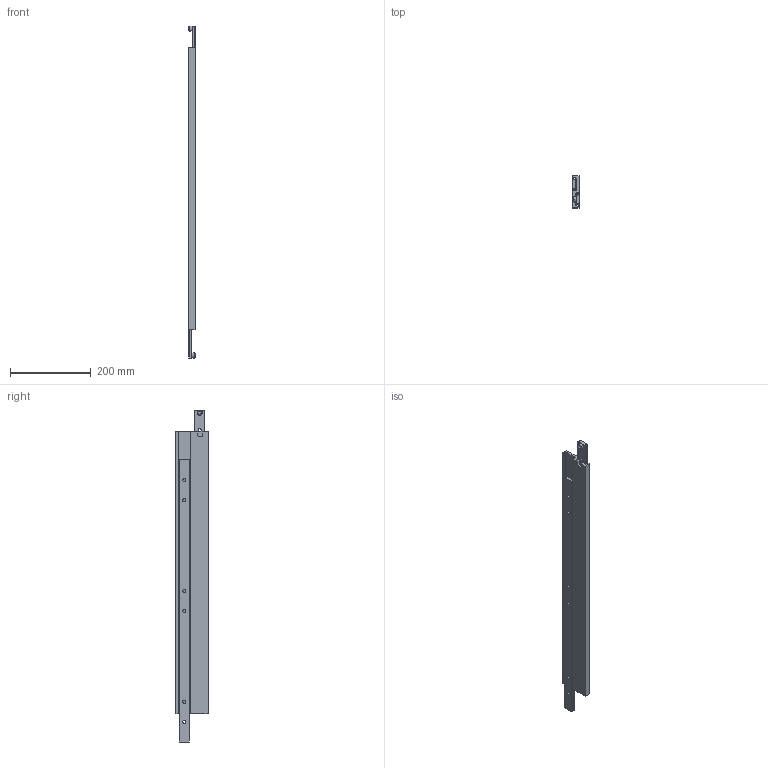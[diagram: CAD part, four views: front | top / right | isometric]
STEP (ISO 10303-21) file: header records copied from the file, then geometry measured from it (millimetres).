
FILE_DESCRIPTION (( 'STEP AP214' ), '1' );
FILE_NAME ('STR80-700.STEP', '2021-04-29T07:15:18', ( '' ), ( '' ), 'SwSTEP 2.0', 'SolidWorks 2020', '' );
FILE_SCHEMA (( 'AUTOMOTIVE_DESIGN' ));
Length unit declared in the file: millimetre
Products named in the file (3): STR80-700; masko40_700; zensko40_700
Assembly tree (3 placements, depth 2):
  STR80-700
    masko40_700  x2
    zensko40_700
Bounding box: 16.9 x 80 x 823.93 mm (x, y, z)
Volume: 698804.3 mm3; surface area: 262035.9 mm2
Topology: 3 solids, 3 shells, 99 faces, 265 edges, 174 vertices
Faces by surface type: plane 56, cylinder 39, torus 4
Entity records: 2190 total; most frequent: DIRECTION 368, CARTESIAN_POINT 363, ORIENTED_EDGE 352, EDGE_CURVE 176, VECTOR 126, LINE 126, AXIS2_PLACEMENT_3D 121, VERTEX_POINT 116
